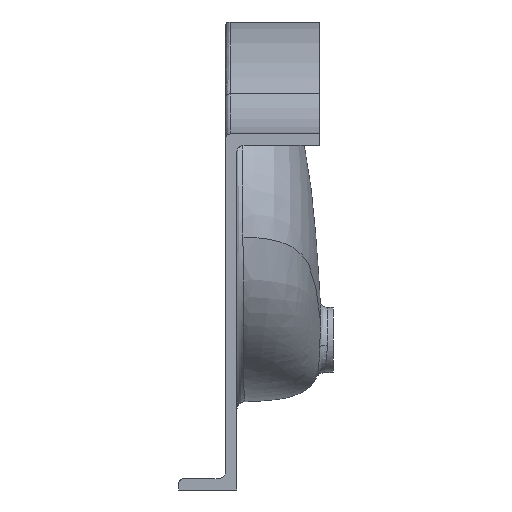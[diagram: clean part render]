
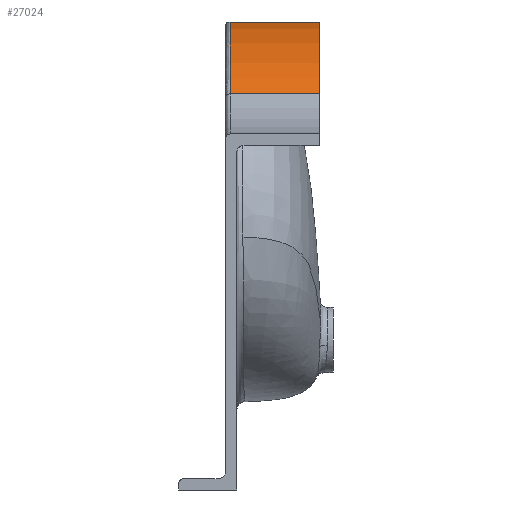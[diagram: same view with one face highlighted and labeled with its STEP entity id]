
A CAD part, left-side view. The second image highlights one B-rep face of the part: STEP entity #27024.
In plain terms, the highlighted free-form (B-spline) face has degree [3, 1] with [4, 2] control points.
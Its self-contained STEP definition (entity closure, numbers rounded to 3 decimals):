
#1097 = CARTESIAN_POINT ( 'NONE',  ( -215., -5., 140.271 ) ) ;
#1938 = CARTESIAN_POINT ( 'NONE',  ( 215., -100., 140.271 ) ) ;
#3495 =( BOUNDED_CURVE ( )  B_SPLINE_CURVE ( 3, ( #1938, #5443, #37973, #28814 ),
 .UNSPECIFIED., .F., .T. ) 
 B_SPLINE_CURVE_WITH_KNOTS ( ( 4, 4 ),
 ( 0.701, 2.441 ),
 .UNSPECIFIED. ) 
 CURVE ( )  GEOMETRIC_REPRESENTATION_ITEM ( )  RATIONAL_B_SPLINE_CURVE ( ( 1., 0.763, 0.763, 1. ) ) 
 REPRESENTATION_ITEM ( '' )  );
#3628 = CARTESIAN_POINT ( 'NONE',  ( 93.893, -5., 251.227 ) ) ;
#3736 = CARTESIAN_POINT ( 'NONE',  ( -215., -100., 140.271 ) ) ;
#3903 = VECTOR ( 'NONE', #26667, 1000. ) ;
#4021 = VERTEX_POINT ( 'NONE', #21958 ) ;
#5327 = VERTEX_POINT ( 'NONE', #3736 ) ;
#5443 = CARTESIAN_POINT ( 'NONE',  ( 93.893, -100., 251.227 ) ) ;
#6190 = CARTESIAN_POINT ( 'NONE',  ( 93.893, -5., 251.227 ) ) ;
#7650 = VECTOR ( 'NONE', #21414, 1000. ) ;
#9134 = LINE ( 'NONE', #21024, #3903 ) ;
#9173 = EDGE_CURVE ( 'NONE', #5327, #13902, #30153, .T. ) ;
#9663 = EDGE_CURVE ( 'NONE', #25392, #4021, #9134, .T. ) ;
#9868 = CARTESIAN_POINT ( 'NONE',  ( -93.893, -100., 251.227 ) ) ;
#12410 = CARTESIAN_POINT ( 'NONE',  ( -215., -100., 140.271 ) ) ;
#13089 = ORIENTED_EDGE ( 'NONE', *, *, #18249, .F. ) ;
#13178 = ORIENTED_EDGE ( 'NONE', *, *, #32950, .T. ) ;
#13902 = VERTEX_POINT ( 'NONE', #16309 ) ;
#14986 = CARTESIAN_POINT ( 'NONE',  ( -215., 0., 140.271 ) ) ;
#16309 = CARTESIAN_POINT ( 'NONE',  ( -215., -5., 140.271 ) ) ;
#16680 = EDGE_LOOP ( 'NONE', ( #37320, #13178, #32247, #13089 ) ) ;
#18249 = EDGE_CURVE ( 'NONE', #25392, #5327, #3495, .T. ) ;
#19444 =( BOUNDED_CURVE ( )  B_SPLINE_CURVE ( 3, ( #23920, #6190, #30891, #30702 ),
 .UNSPECIFIED., .F., .T. ) 
 B_SPLINE_CURVE_WITH_KNOTS ( ( 4, 4 ),
 ( 0., 1. ),
 .UNSPECIFIED. ) 
 CURVE ( )  GEOMETRIC_REPRESENTATION_ITEM ( )  RATIONAL_B_SPLINE_CURVE ( ( 1., 0.763, 0.763, 1. ) ) 
 REPRESENTATION_ITEM ( '' )  );
#21024 = CARTESIAN_POINT ( 'NONE',  ( 215., 0., 140.271 ) ) ;
#21414 = DIRECTION ( 'NONE',  ( 0., 1., 0. ) ) ;
#21699 = CARTESIAN_POINT ( 'NONE',  ( 215., -100., 140.271 ) ) ;
#21958 = CARTESIAN_POINT ( 'NONE',  ( 215., -5., 140.271 ) ) ;
#23920 = CARTESIAN_POINT ( 'NONE',  ( 215., -5., 140.271 ) ) ;
#24288 = CARTESIAN_POINT ( 'NONE',  ( 93.893, -100., 251.227 ) ) ;
#25392 = VERTEX_POINT ( 'NONE', #21699 ) ;
#26667 = DIRECTION ( 'NONE',  ( 0., 1., 0. ) ) ;
#27024 = ADVANCED_FACE ( 'NONE', ( #27202 ), #36607, .T. ) ;
#27202 = FACE_OUTER_BOUND ( 'NONE', #16680, .T. ) ;
#27586 = CARTESIAN_POINT ( 'NONE',  ( 215., -100., 140.271 ) ) ;
#28814 = CARTESIAN_POINT ( 'NONE',  ( -215., -100., 140.271 ) ) ;
#30153 = LINE ( 'NONE', #14986, #7650 ) ;
#30702 = CARTESIAN_POINT ( 'NONE',  ( -215., -5., 140.271 ) ) ;
#30891 = CARTESIAN_POINT ( 'NONE',  ( -93.893, -5., 251.227 ) ) ;
#32247 = ORIENTED_EDGE ( 'NONE', *, *, #9173, .F. ) ;
#32950 = EDGE_CURVE ( 'NONE', #4021, #13902, #19444, .T. ) ;
#33813 = CARTESIAN_POINT ( 'NONE',  ( -93.893, -5., 251.227 ) ) ;
#36607 =( BOUNDED_SURFACE ( )  B_SPLINE_SURFACE ( 3, 1, ( 
 ( #12410, #1097 ),
 ( #9868, #33813 ),
 ( #24288, #3628 ),
 ( #27586, #36935 ) ),
 .UNSPECIFIED., .F., .F., .F. ) 
 B_SPLINE_SURFACE_WITH_KNOTS ( ( 4, 4 ),
 ( 2, 2 ),
 ( 0., 1. ),
 ( 0., 1. ),
 .UNSPECIFIED. ) 
 GEOMETRIC_REPRESENTATION_ITEM ( )  RATIONAL_B_SPLINE_SURFACE ( (
 ( 1., 1.),
 ( 0.763, 0.763),
 ( 0.763, 0.763),
 ( 1., 1.) ) ) 
 REPRESENTATION_ITEM ( '' )  SURFACE ( )  );
#36935 = CARTESIAN_POINT ( 'NONE',  ( 215., -5., 140.271 ) ) ;
#37320 = ORIENTED_EDGE ( 'NONE', *, *, #9663, .T. ) ;
#37973 = CARTESIAN_POINT ( 'NONE',  ( -93.893, -100., 251.227 ) ) ;
